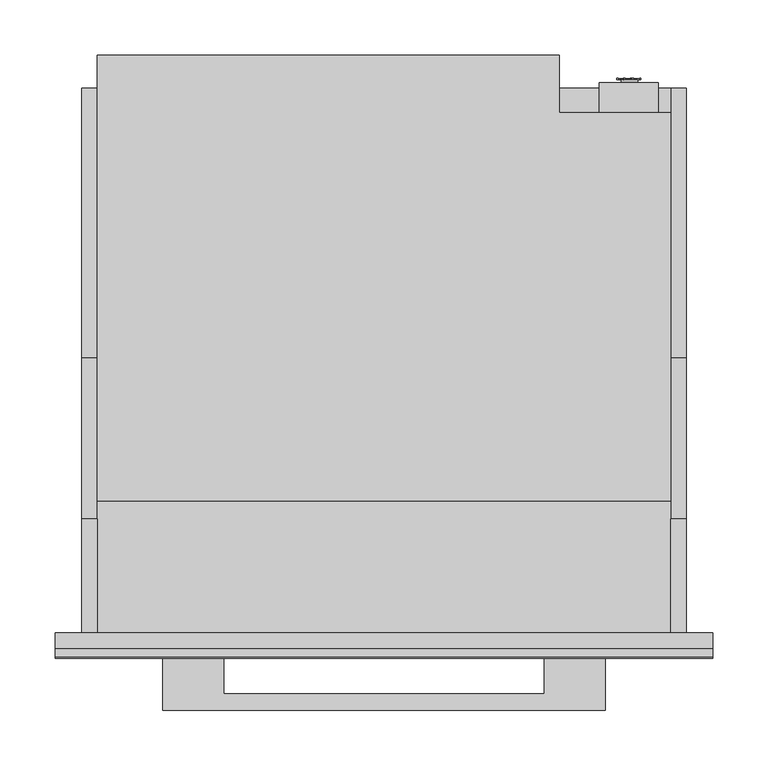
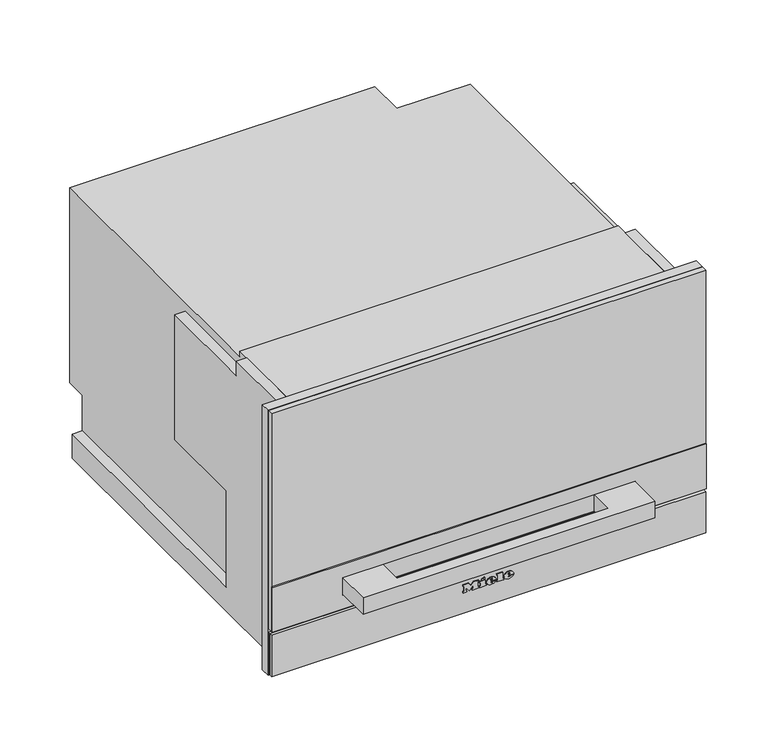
"""IFC4 building model written with IfcOpenShell, lengths in millimetres: proxy geometry, 11170090_NL_DGD7635_EDST-CLST : 23763545_NL_11170090_DGD7635_EDST-CLST."""

from ifc_helpers import new_model, si_unit, point, frame, frame_2d, origin, place, context, project, spatial, polyline, circle_curve, ellipse_curve, trimmed, segment, composite_curve, outline, extrude, faceted_brep, source, transform, mapped, element, save
from ifc_brep_helpers import plane_surface, cylinder_surface, revolved_surface, extruded_surface, advanced_brep


def specialty_equipment_29e4d5af(model_context):
    return source(origin(), model_context, "Body", "SolidModel", [
        advanced_brep(
        [(26.2998, -23.0, 36.7018), (26.2998, -23.0, 37.8532), (33.9264, -23.0, 37.8532), (20.6568, -23.0, 37.8532), (23.7918, -23.0, 34.0), (33.7326, -23.0, 36.7018), (30.2898, -23.0, 36.7018), (27.5766, -23.0, 35.425), (26.2998, -23.0, 39.3124), (26.2998, -23.0, 40.555), (28.2492, -23.0, 40.555), (28.2492, -23.0, 39.3124), (26.2998, -22.0, 36.7018), (27.5766, -22.0, 35.425), (30.2898, -22.0, 36.7018), (33.7326, -22.0, 36.7018), (23.7918, -22.0, 34.0), (20.6568, -22.0, 37.8532), (33.9264, -22.0, 37.8532), (26.2998, -22.0, 37.8532), (26.2998, -22.0, 39.3124), (28.2492, -22.0, 39.3124), (28.2492, -22.0, 40.555), (26.2998, -22.0, 40.555)],
        [
            (0, 1),
            (1, 2),
            (2, 3, ellipse_curve(frame((27.2916, -23.0, 37.8532), z_axis=(0.0, -1.0, 0.0), x_axis=(-1.0, 0.0, 0.0)), 6.6348, 5.4834)),
            (3, 4, circle_curve(frame((25.0686622, -23.0, 38.2408), z_axis=(0.0, -1.0, 0.0), x_axis=(0.0, 0.0, -1.0)), 4.4288556)),
            (4, 5, circle_curve(frame((27.1587808, -23.0, 41.2504), z_axis=(0.0, -1.0, 0.0), x_axis=(0.0, 0.0, -1.0)), 7.9940516)),
            (5, 6),
            (6, 7, circle_curve(frame((28.1338588, -23.0, 37.762), z_axis=(0.0, 1.0, 0.0), x_axis=(0.0, 0.0, -1.0)), 2.4025208)),
            (7, 0, circle_curve(frame((27.5766, -23.0, 36.7018), z_axis=(0.0, 1.0, 0.0), x_axis=(0.0, 0.0, -1.0)), 1.2768)),
            (8, 9),
            (9, 10, circle_curve(frame((27.2745, -23.0, 40.555), z_axis=(0.0, 1.0, 0.0), x_axis=(0.0, 0.0, -1.0)), 0.9747)),
            (10, 11),
            (11, 8),
            (12, 13, circle_curve(frame((27.5766, -22.0, 36.7018), z_axis=(0.0, -1.0, 0.0), x_axis=(0.0, 0.0, -1.0)), 1.2768)),
            (13, 14, circle_curve(frame((28.1338588, -22.0, 37.762), z_axis=(0.0, -1.0, 0.0), x_axis=(0.0, 0.0, -1.0)), 2.4025208)),
            (14, 15),
            (15, 16, circle_curve(frame((27.1587808, -22.0, 41.2504), z_axis=(0.0, 1.0, 0.0), x_axis=(0.0, 0.0, -1.0)), 7.9940516)),
            (16, 17, circle_curve(frame((25.0686622, -22.0, 38.2408), z_axis=(0.0, 1.0, 0.0), x_axis=(0.0, 0.0, -1.0)), 4.4288556)),
            (17, 18, ellipse_curve(frame((27.2916, -22.0, 37.8532), z_axis=(0.0, 1.0, 0.0), x_axis=(-1.0, 0.0, 0.0)), 6.6348, 5.4834)),
            (18, 19),
            (19, 12),
            (20, 21),
            (21, 22),
            (22, 23, circle_curve(frame((27.2745, -22.0, 40.555), z_axis=(0.0, -1.0, 0.0), x_axis=(0.0, 0.0, -1.0)), 0.9747)),
            (23, 20),
            (0, 12),
            (19, 1),
            (18, 2),
            (5, 15),
            (14, 6),
            (17, 3),
            (13, 7),
            (16, 4),
            (8, 20),
            (23, 9),
            (22, 10),
            (21, 11),
        ],
        [
            plane_surface(frame((26.2998, -23.0, 37.8532), z_axis=(0.0, -1.0, 0.0), x_axis=(0.0, 0.0, 1.0))),
            plane_surface(frame((26.2998, -22.0, 37.8532), z_axis=(0.0, 1.0, 0.0), x_axis=(0.0, 0.0, -1.0))),
            plane_surface(frame((26.2998, -23.0, 36.7018), z_axis=(1.0, 0.0, 0.0), x_axis=(0.0, 1.0, 0.0))),
            plane_surface(frame((26.2998, -23.0, 37.8532), z_axis=(0.0, 0.0, -1.0), x_axis=(0.0, 1.0, 0.0))),
            plane_surface(frame((33.7326, -23.0, 36.7018), z_axis=(0.0, 0.0, 1.0), x_axis=(0.0, 1.0, 0.0))),
            extruded_surface(trimmed(ellipse_curve(frame((27.2916, -21.0, 37.8532), z_axis=(0.0, -1.0, 0.0), x_axis=(-1.0, 0.0, 0.0)), 6.6348, 5.4834), [point((33.9264, -21.0, 37.8532))], [point((20.6568, -21.0, 37.8532))], True, "CARTESIAN"), (0.0, -1.0, 0.0), 1.0),
            revolved_surface(polyline([(28.1338588, -22.0, 35.3594792), (28.1338588, -23.0, 35.3594792)]), (28.1338588, -22.0, 37.762), (0.0, 1.0, 0.0)),
            revolved_surface(polyline([(27.5766, -22.0, 35.425), (27.5766, -23.0, 35.425)]), (27.5766, -22.0, 36.7018), (0.0, 1.0, 0.0)),
            cylinder_surface(frame((25.0686622, -22.0, 38.2408), z_axis=(0.0, -1.0, 0.0), x_axis=(0.0, 0.0, -1.0)), 4.4288556),
            cylinder_surface(frame((27.1587808, -22.0, 41.2504), z_axis=(0.0, -1.0, 0.0), x_axis=(0.0, 0.0, -1.0)), 7.9940516),
            plane_surface(frame((26.2998, -23.0, 39.3124), z_axis=(1.0, 0.0, 0.0), x_axis=(0.0, 1.0, 0.0))),
            revolved_surface(polyline([(27.2745, -22.0, 39.5803), (27.2745, -23.0, 39.5803)]), (27.2745, -22.0, 40.555), (0.0, 1.0, 0.0)),
            plane_surface(frame((28.2492, -23.0, 40.555), z_axis=(-1.0, 0.0, 0.0), x_axis=(0.0, 1.0, 0.0))),
            plane_surface(frame((28.2492, -23.0, 39.3124), z_axis=(0.0, 0.0, 1.0), x_axis=(0.0, 1.0, 0.0))),
        ],
        [
            (0, [[1, 2, 3, 4, 5, 6, 7, 8], [9, 10, 11, 12]]),
            (1, [[13, 14, 15, 16, 17, 18, 19, 20], [21, 22, 23, 24]]),
            (2, [[-1, 25, -20, 26]]),
            (3, [[-2, -26, -19, 27]]),
            (4, [[-6, 28, -15, 29]]),
            (5, [[-3, -27, -18, 30]]),
            (6, [[-7, -29, -14, 31]]),
            (7, [[-8, -31, -13, -25]]),
            (8, [[-4, -30, -17, 32]]),
            (9, [[-5, -32, -16, -28]]),
            (10, [[-9, 33, -24, 34]]),
            (11, [[-10, -34, -23, 35]]),
            (12, [[-11, -35, -22, 36]]),
            (13, [[-12, -36, -21, -33]]),
        ],
    ),
        advanced_brep(
        [(2.508, -23.0, 36.7018), (2.508, -23.0, 37.8532), (10.1346, -23.0, 37.8532), (-3.135, -23.0, 37.8532), (0.0, -23.0, 34.0), (9.9408, -23.0, 36.7018), (6.498, -23.0, 36.7018), (3.7848, -23.0, 35.425), (2.508, -23.0, 39.3124), (2.508, -23.0, 40.555), (4.4574, -23.0, 40.555), (4.4574, -23.0, 39.3124), (2.508, -22.0, 36.7018), (3.7848, -22.0, 35.425), (6.498, -22.0, 36.7018), (9.9408, -22.0, 36.7018), (0.0, -22.0, 34.0), (-3.135, -22.0, 37.8532), (10.1346, -22.0, 37.8532), (2.508, -22.0, 37.8532), (2.508, -22.0, 39.3124), (4.4574, -22.0, 39.3124), (4.4574, -22.0, 40.555), (2.508, -22.0, 40.555)],
        [
            (0, 1),
            (1, 2),
            (2, 3, ellipse_curve(frame((3.4998, -23.0, 37.8532), z_axis=(0.0, -1.0, 0.0), x_axis=(-1.0, 0.0, 0.0)), 6.6348, 5.4834)),
            (3, 4, circle_curve(frame((1.2768622, -23.0, 38.2408), z_axis=(0.0, -1.0, 0.0), x_axis=(0.0, 0.0, -1.0)), 4.4288556)),
            (4, 5, circle_curve(frame((3.3669808, -23.0, 41.2504), z_axis=(0.0, -1.0, 0.0), x_axis=(0.0, 0.0, -1.0)), 7.9940516)),
            (5, 6),
            (6, 7, circle_curve(frame((4.3420588, -23.0, 37.762), z_axis=(0.0, 1.0, 0.0), x_axis=(0.0, 0.0, -1.0)), 2.4025208)),
            (7, 0, circle_curve(frame((3.7848, -23.0, 36.7018), z_axis=(0.0, 1.0, 0.0), x_axis=(0.0, 0.0, -1.0)), 1.2768)),
            (8, 9),
            (9, 10, circle_curve(frame((3.4827, -23.0, 40.555), z_axis=(0.0, 1.0, 0.0), x_axis=(0.0, 0.0, -1.0)), 0.9747)),
            (10, 11),
            (11, 8),
            (12, 13, circle_curve(frame((3.7848, -22.0, 36.7018), z_axis=(0.0, -1.0, 0.0), x_axis=(0.0, 0.0, -1.0)), 1.2768)),
            (13, 14, circle_curve(frame((4.3420588, -22.0, 37.762), z_axis=(0.0, -1.0, 0.0), x_axis=(0.0, 0.0, -1.0)), 2.4025208)),
            (14, 15),
            (15, 16, circle_curve(frame((3.3669808, -22.0, 41.2504), z_axis=(0.0, 1.0, 0.0), x_axis=(0.0, 0.0, -1.0)), 7.9940516)),
            (16, 17, circle_curve(frame((1.2768622, -22.0, 38.2408), z_axis=(0.0, 1.0, 0.0), x_axis=(0.0, 0.0, -1.0)), 4.4288556)),
            (17, 18, ellipse_curve(frame((3.4998, -22.0, 37.8532), z_axis=(0.0, 1.0, 0.0), x_axis=(-1.0, 0.0, 0.0)), 6.6348, 5.4834)),
            (18, 19),
            (19, 12),
            (20, 21),
            (21, 22),
            (22, 23, circle_curve(frame((3.4827, -22.0, 40.555), z_axis=(0.0, -1.0, 0.0), x_axis=(0.0, 0.0, -1.0)), 0.9747)),
            (23, 20),
            (0, 12),
            (19, 1),
            (18, 2),
            (5, 15),
            (14, 6),
            (17, 3),
            (13, 7),
            (16, 4),
            (8, 20),
            (23, 9),
            (22, 10),
            (21, 11),
        ],
        [
            plane_surface(frame((2.508, -23.0, 37.8532), z_axis=(0.0, -1.0, 0.0), x_axis=(0.0, 0.0, 1.0))),
            plane_surface(frame((2.508, -22.0, 37.8532), z_axis=(0.0, 1.0, 0.0), x_axis=(0.0, 0.0, -1.0))),
            plane_surface(frame((2.508, -23.0, 36.7018), z_axis=(1.0, 0.0, 0.0), x_axis=(0.0, 1.0, 0.0))),
            plane_surface(frame((2.508, -23.0, 37.8532), z_axis=(0.0, 0.0, -1.0), x_axis=(0.0, 1.0, 0.0))),
            plane_surface(frame((9.9408, -23.0, 36.7018), z_axis=(0.0, 0.0, 1.0), x_axis=(0.0, 1.0, 0.0))),
            extruded_surface(trimmed(ellipse_curve(frame((3.4998, -21.0, 37.8532), z_axis=(0.0, -1.0, 0.0), x_axis=(-1.0, 0.0, 0.0)), 6.6348, 5.4834), [point((10.1346, -21.0, 37.8532))], [point((-3.135, -21.0, 37.8532))], True, "CARTESIAN"), (0.0, -1.0, 0.0), 1.0),
            revolved_surface(polyline([(4.3420588, -22.0, 35.3594792), (4.3420588, -23.0, 35.3594792)]), (4.3420588, -22.0, 37.762), (0.0, 1.0, 0.0)),
            revolved_surface(polyline([(3.7848, -22.0, 35.425), (3.7848, -23.0, 35.425)]), (3.7848, -22.0, 36.7018), (0.0, 1.0, 0.0)),
            cylinder_surface(frame((1.2768622, -22.0, 38.2408), z_axis=(0.0, -1.0, 0.0), x_axis=(0.0, 0.0, -1.0)), 4.4288556),
            cylinder_surface(frame((3.3669808, -22.0, 41.2504), z_axis=(0.0, -1.0, 0.0), x_axis=(0.0, 0.0, -1.0)), 7.9940516),
            plane_surface(frame((2.508, -23.0, 39.3124), z_axis=(1.0, 0.0, 0.0), x_axis=(0.0, 1.0, 0.0))),
            revolved_surface(polyline([(3.4827, -22.0, 39.5803), (3.4827, -23.0, 39.5803)]), (3.4827, -22.0, 40.555), (0.0, 1.0, 0.0)),
            plane_surface(frame((4.4574, -23.0, 40.555), z_axis=(-1.0, 0.0, 0.0), x_axis=(0.0, 1.0, 0.0))),
            plane_surface(frame((4.4574, -23.0, 39.3124), z_axis=(0.0, 0.0, 1.0), x_axis=(0.0, 1.0, 0.0))),
        ],
        [
            (0, [[1, 2, 3, 4, 5, 6, 7, 8], [9, 10, 11, 12]]),
            (1, [[13, 14, 15, 16, 17, 18, 19, 20], [21, 22, 23, 24]]),
            (2, [[-1, 25, -20, 26]]),
            (3, [[-2, -26, -19, 27]]),
            (4, [[-6, 28, -15, 29]]),
            (5, [[-3, -27, -18, 30]]),
            (6, [[-7, -29, -14, 31]]),
            (7, [[-8, -31, -13, -25]]),
            (8, [[-4, -30, -17, 32]]),
            (9, [[-5, -32, -16, -28]]),
            (10, [[-9, 33, -24, 34]]),
            (11, [[-10, -34, -23, 35]]),
            (12, [[-11, -35, -22, 36]]),
            (13, [[-12, -36, -21, -33]]),
        ],
    ),
        extrude(outline(polyline([(44.7274, -9.9522), (42.8806, -9.0858), (44.6818, -5.2212), (46.5286, -6.0762), (44.7274, -9.9522)])), frame((0.0, -23.0, 0.0), z_axis=(0.0, 1.0, 0.0), x_axis=(0.0, 0.0, 1.0)), (0.0, 0.0, 1.0), 1.0),
        extrude(outline(polyline([(42.6298, -12.768), (40.5892, -12.768), (40.5892, -11.4114), (35.9152, -11.4114), (35.9152, -12.768), (34.0, -12.768), (34.0, -3.7734), (35.9152, -3.7734), (35.9152, -5.0958), (42.6298, -5.0958), (42.6298, -12.768)])), frame((0.0, -23.0, 0.0), z_axis=(0.0, 1.0, 0.0), x_axis=(0.0, 0.0, 1.0)), (0.0, 0.0, 1.0), 1.0),
        extrude(outline(polyline([(43.5418, 10.773), (43.5418, 12.141), (35.9152, 12.141), (35.9152, 10.773), (34.0, 10.773), (34.0, 20.0184), (35.9152, 20.0184), (35.9152, 18.6162), (45.4, 18.6162), (45.4, 10.773), (43.5418, 10.773)])), frame((0.0, -23.0, 0.0), z_axis=(0.0, 1.0, 0.0), x_axis=(0.0, 0.0, 1.0)), (0.0, 0.0, 1.0), 1.0),
        extrude(outline(polyline([(43.5418, -35.4882), (43.5418, -34.1088), (35.9152, -34.1088), (35.9152, -35.4882), (34.0, -35.4882), (34.0, -30.4722), (35.9152, -30.4722), (35.9152, -31.8402), (40.7429247, -31.8402), (34.0, -26.7444), (40.9402223, -21.6258), (35.9152, -21.6258), (35.9152, -23.028), (34.0, -23.028), (34.0, -13.9308), (35.9152, -13.9308), (35.9152, -15.3786), (43.5418, -15.3786), (43.5418, -13.9308), (45.4, -13.9308), (45.4, -20.8734), (41.125, -24.2022), (45.4, -27.5424), (45.4, -35.4882), (43.5418, -35.4882)])), frame((0.0, -23.0, 0.0), z_axis=(0.0, 1.0, 0.0), x_axis=(0.0, 0.0, 1.0)), (0.0, 0.0, 1.0), 1.0),
        extrude(outline(polyline([(385.0, 297.5), (385.0, -297.5), (1.0, -297.5), (1.0, 297.5), (385.0, 297.5)]), holes=[polyline([(376.0, 271.5), (55.0, 271.5), (55.0, -271.5), (376.0, -271.5), (376.0, 271.5)])]), frame((0.0, -14.0, 0.0), z_axis=(0.0, 1.0, 0.0), x_axis=(0.0, 0.0, 1.0)), (0.0, 0.0, 1.0), 14.0),
        extrude(outline(polyline([(-297.5, -18.0), (297.5, -18.0), (297.5, -22.0), (-297.5, -22.0), (-297.5, -18.0)])), frame((0.0, 0.0, 4.0), z_axis=(0.0, 0.0, 1.0), x_axis=(1.0, 0.0, 0.0)), (0.0, 0.0, 1.0), 60.0),
        extrude(outline(polyline([(-297.5, -14.0), (297.5, -14.0), (297.5, -18.0), (-297.5, -18.0), (-297.5, -14.0)])), frame((0.0, 0.0, 4.0), z_axis=(0.0, 0.0, 1.0), x_axis=(1.0, 0.0, 0.0)), (0.0, 0.0, 1.0), 60.0),
        extrude(outline(composite_curve([segment(trimmed(circle_curve(frame_2d((220.0, -56.0)), 142.0), [point((220.0, 86.0))], [point((220.0, -198.0))], False, "CARTESIAN"), True, "CONTINUOUS"), segment(trimmed(circle_curve(frame_2d((220.0, -56.0)), 142.0), [point((220.0, -198.0))], [point((220.0, 86.0))], False, "CARTESIAN"), True, "CONTINUOUS")], self_intersect=False), holes=[composite_curve([segment(trimmed(circle_curve(frame_2d((220.0, -56.0)), 130.0), [point((220.0, 74.0))], [point((220.0, -186.0))], True, "CARTESIAN"), True, "CONTINUOUS"), segment(trimmed(circle_curve(frame_2d((220.0, -56.0)), 130.0), [point((220.0, -186.0))], [point((220.0, 74.0))], True, "CARTESIAN"), True, "CONTINUOUS")], self_intersect=False)]), frame((0.0, 73.0, 0.0), z_axis=(0.0, 1.0, 0.0), x_axis=(0.0, 0.0, 1.0)), (0.0, 0.0, 1.0), 27.0),
        extrude(outline(polyline([(135.3565747, 500.0), (134.220051, 503.1225733), (130.1009663, 503.1225733), (128.9644426, 500.0), (127.6142523, 500.0), (131.587748, 510.0), (132.7133829, 510.0), (136.6813016, 500.0), (135.3565747, 500.0)]), holes=[polyline([(133.7362065, 504.4519252), (132.1605087, 508.7811193), (130.5848109, 504.4519252), (133.7362065, 504.4519252)])]), frame((0.0, 0.0, 55.0), z_axis=(0.0, 0.0, 1.0), x_axis=(1.0, 0.0, 0.0)), (0.0, 0.0, 1.0), 1.0),
        extrude(outline(polyline([(125.9185787, 510.0), (127.1760447, 510.0), (124.4705666, 500.0), (122.9432999, 500.0), (120.3689708, 508.830311), (117.6245927, 500.0), (116.2783886, 500.0), (113.5302279, 510.0549623), (114.836363, 510.0549623), (116.9115224, 501.4130168), (119.4406083, 510.0471338), (121.3085745, 510.0471338), (123.8274276, 501.4071134), (125.9185787, 510.0)])), frame((0.0, 0.0, 55.0), z_axis=(0.0, 0.0, 1.0), x_axis=(1.0, 0.0, 0.0)), (0.0, 0.0, 1.0), 1.0),
        extrude(outline(polyline([(241.3772603, 474.0), (234.0, 474.0), (234.0, 475.2557039), (240.1215564, 475.2557039), (240.1215564, 478.5519266), (234.470889, 478.5519266), (234.470889, 479.8076304), (240.1215564, 479.8076304), (240.1215564, 482.7899271), (234.156963, 482.7899271), (234.156963, 484.045631), (241.3772603, 484.045631), (241.3772603, 474.0)])), frame((0.0, 0.0, 230.0), z_axis=(0.0, 0.0, 1.0), x_axis=(1.0, 0.0, 0.0)), (0.0, 0.0, 1.0), 1.0),
        extrude(outline(polyline([(232.1164442, 474.0), (225.8379248, 474.0), (225.8379248, 475.2557039), (230.8607403, 475.2557039), (230.8607403, 484.045631), (232.1164442, 484.045631), (232.1164442, 474.0)])), frame((0.0, 0.0, 230.0), z_axis=(0.0, 0.0, 1.0), x_axis=(1.0, 0.0, 0.0)), (0.0, 0.0, 1.0), 1.0),
        extrude(outline(polyline([(159.0, 232.51652), (169.045631, 232.51652), (169.045631, 231.2608161), (164.128275, 231.2608161), (169.045631, 226.1104682), (169.045631, 224.3544448), (164.9155425, 228.6782845), (159.0, 224.1974818), (159.0, 225.732776), (164.0669613, 229.5685589), (162.4531857, 231.2608161), (159.0, 231.2608161), (159.0, 232.51652)])), frame((0.0, 501.0, 0.0), z_axis=(0.0, 1.0, 0.0), x_axis=(0.0, 0.0, 1.0)), (0.0, 0.0, 1.0), 1.0),
        extrude(outline(polyline([(159.0, 221.4579872), (169.045631, 224.1974818), (169.045631, 222.9025372), (162.4433755, 221.3132869), (160.4053092, 220.8227776), (162.207931, 220.2979326), (169.045631, 218.3064648), (169.045631, 216.4400768), (164.0890343, 214.9930743), (160.4053092, 213.9164063), (162.3845144, 213.4406122), (169.045631, 211.8366467), (169.045631, 210.5417021), (159.0, 213.2836493), (159.0, 214.6251923), (166.7500474, 217.0335931), (167.8316204, 217.369592), (166.5293182, 217.7472841), (159.0, 219.9423134), (159.0, 221.4579872)])), frame((0.0, 501.0, 0.0), z_axis=(0.0, 1.0, 0.0), x_axis=(0.0, 0.0, 1.0)), (0.0, 0.0, 1.0), 1.0),
        extrude(outline(composite_curve([segment(trimmed(circle_curve(frame_2d((164.0, 222.0)), 7.5), [point((164.0, 229.5))], [point((164.0, 214.5))], False, "CARTESIAN"), True, "CONTINUOUS"), segment(trimmed(circle_curve(frame_2d((164.0, 222.0)), 7.5), [point((164.0, 214.5))], [point((164.0, 229.5))], False, "CARTESIAN"), True, "CONTINUOUS")], self_intersect=False)), frame((0.0, 471.0, 0.0), z_axis=(0.0, 1.0, 0.0), x_axis=(0.0, 0.0, 1.0)), (0.0, 0.0, 1.0), 30.0),
        extrude(outline(composite_curve([segment(trimmed(circle_curve(frame_2d((125.0, 505.0)), 7.5), [point((117.5, 505.0))], [point((132.5, 505.0))], False, "CARTESIAN"), True, "CONTINUOUS"), segment(trimmed(circle_curve(frame_2d((125.0, 505.0)), 7.5), [point((132.5, 505.0))], [point((117.5, 505.0))], False, "CARTESIAN"), True, "CONTINUOUS")], self_intersect=False)), frame((0.0, 0.0, 56.0), z_axis=(0.0, 0.0, 1.0), x_axis=(1.0, 0.0, 0.0)), (0.0, 0.0, 1.0), 30.0),
        extrude(outline(composite_curve([segment(trimmed(circle_curve(frame_2d((234.0, 478.8)), 7.5), [point((226.5, 478.8))], [point((241.5, 478.8))], False, "CARTESIAN"), True, "CONTINUOUS"), segment(trimmed(circle_curve(frame_2d((234.0, 478.8)), 7.5), [point((241.5, 478.8))], [point((226.5, 478.8))], False, "CARTESIAN"), True, "CONTINUOUS")], self_intersect=False)), frame((0.0, 0.0, 231.0), z_axis=(0.0, 0.0, 1.0), x_axis=(1.0, 0.0, 0.0)), (0.0, 0.0, 1.0), 30.0),
        extrude(outline(polyline([(195.0, 498.0), (248.0, 498.0), (248.0, 471.0), (195.0, 471.0), (195.0, 498.0)])), frame((0.0, 0.0, 261.0), z_axis=(0.0, 0.0, 1.0), x_axis=(1.0, 0.0, 0.0)), (0.0, 0.0, 1.0), 84.0),
        faceted_brep([(273.5, 0.0, 0.0), (273.5, 493.0, 0.0), (273.5, 493.0, 35.0), (273.5, 127.0, 35.0), (273.5, 127.0, 175.0), (273.5, 249.0, 175.0), (273.5, 249.0, 356.0), (273.5, 103.0, 356.0), (273.5, 103.0, 377.0), (273.5, 0.0, 377.0), (259.5, 0.0, 377.0), (259.5, 103.0, 377.0), (259.5, 103.0, 356.0), (259.5, 249.0, 356.0), (259.5, 249.0, 175.0), (259.5, 127.0, 175.0), (259.5, 127.0, 35.0), (259.5, 493.0, 35.0), (259.5, 493.0, 0.0), (259.5, 0.0, 0.0), (259.5, 0.0, 55.0), (259.5, 100.0, 55.0), (259.5, 100.0, 376.0), (259.5, 0.0, 376.0), (271.5, 0.0, 376.0), (271.5, 0.0, 55.0), (271.5, 100.0, 55.0), (271.5, 100.0, 376.0)], [[[0, 1, 2, 3, 4, 5, 6, 7, 8, 9]], [[10, 11, 12, 13, 14, 15, 16, 17, 18, 19, 20, 21, 22, 23]], [[1, 0, 19, 18]], [[2, 1, 18, 17]], [[3, 2, 17, 16]], [[4, 3, 16, 15]], [[5, 4, 15, 14]], [[6, 5, 14, 13]], [[7, 6, 13, 12]], [[8, 7, 12, 11]], [[9, 8, 11, 10]], [[0, 9, 10, 23, 24, 25, 20, 19]], [[26, 27, 22, 21]], [[27, 26, 25, 24]], [[26, 21, 20, 25]], [[22, 27, 24, 23]]]),
        faceted_brep([(-273.5, 103.0, 377.0), (-273.5, 103.0, 356.0), (-273.5, 249.0, 356.0), (-273.5, 249.0, 175.0), (-273.5, 127.0, 175.0), (-273.5, 127.0, 35.0), (-273.5, 493.0, 35.0), (-273.5, 493.0, 0.0), (-273.5, 0.0, 0.0), (-273.5, 0.0, 377.0), (-259.5, 103.0, 377.0), (-259.5, 0.0, 377.0), (-259.5, 0.0, 376.0), (-259.5, 100.0, 376.0), (-259.5, 100.0, 55.0), (-259.5, 0.0, 55.0), (-259.5, 0.0, 0.0), (-259.5, 493.0, 0.0), (-259.5, 493.0, 35.0), (-259.5, 127.0, 35.0), (-259.5, 127.0, 175.0), (-259.5, 249.0, 175.0), (-259.5, 249.0, 356.0), (-259.5, 103.0, 356.0), (-271.5, 0.0, 55.0), (-271.5, 0.0, 376.0), (-271.5, 100.0, 376.0), (-271.5, 100.0, 55.0)], [[[0, 1, 2, 3, 4, 5, 6, 7, 8, 9]], [[10, 11, 12, 13, 14, 15, 16, 17, 18, 19, 20, 21, 22, 23]], [[0, 9, 11, 10]], [[9, 8, 16, 15, 24, 25, 12, 11]], [[8, 7, 17, 16]], [[7, 6, 18, 17]], [[6, 5, 19, 18]], [[5, 4, 20, 19]], [[4, 3, 21, 20]], [[3, 2, 22, 21]], [[2, 1, 23, 22]], [[1, 0, 10, 23]], [[26, 27, 14, 13]], [[14, 27, 24, 15]], [[27, 26, 25, 24]], [[26, 13, 12, 25]]]),
        advanced_brep(
        [(259.5, 100.0, 376.0), (-259.5, 100.0, 376.0), (-259.5, 100.0, 55.0), (259.5, 100.0, 55.0), (74.0, 100.0, 220.0), (-186.0, 100.0, 220.0), (-259.5, 0.0, 55.0), (259.5, 0.0, 55.0), (259.5, 0.0, 376.0), (-259.5, 0.0, 376.0), (158.5, 471.0, 369.0), (259.5, 471.0, 369.0), (259.5, 471.0, 88.0), (158.5, 471.0, 88.0), (259.5, 0.0, 377.0), (-259.5, 0.0, 377.0), (-259.5, 0.0, 0.0), (259.5, 0.0, 0.0), (259.5, 493.0, 0.0), (259.5, 493.0, 88.0), (259.5, 119.0, 369.0), (259.5, 119.0, 377.0), (-259.5, 493.0, 0.0), (-259.5, 119.0, 377.0), (-259.5, 119.0, 369.0), (-259.5, 523.0, 369.0), (-259.5, 523.0, 86.0), (-259.5, 493.0, 86.0), (158.5, 523.0, 369.0), (158.5, 523.0, 86.0), (158.5, 493.0, 88.0), (158.5, 493.0, 86.0), (74.0, 438.0, 220.0), (-186.0, 438.0, 220.0)],
        [
            (0, 1),
            (1, 2),
            (2, 3),
            (3, 0),
            (4, 5, circle_curve(frame((-56.0, 100.0, 220.0), z_axis=(0.0, 1.0, 0.0), x_axis=(-1.0, 0.0, 0.0)), 130.0)),
            (5, 4, circle_curve(frame((-56.0, 100.0, 220.0), z_axis=(0.0, 1.0, 0.0), x_axis=(-1.0, 0.0, 0.0)), 130.0)),
            (2, 6),
            (6, 7),
            (7, 3),
            (0, 8),
            (8, 9),
            (9, 1),
            (10, 11),
            (11, 12),
            (12, 13),
            (13, 10),
            (14, 15),
            (15, 9),
            (8, 14),
            (16, 17),
            (17, 7),
            (6, 16),
            (18, 19),
            (19, 12),
            (11, 20),
            (20, 21),
            (21, 14),
            (17, 18),
            (16, 22),
            (22, 18),
            (15, 23),
            (23, 24),
            (24, 25),
            (25, 26),
            (26, 27),
            (27, 22),
            (21, 23),
            (25, 28),
            (28, 29),
            (29, 26),
            (28, 10),
            (13, 30),
            (30, 31),
            (31, 29),
            (31, 27),
            (20, 24),
            (30, 19),
            (32, 33, circle_curve(frame((-56.0, 438.0, 220.0), z_axis=(0.0, -1.0, 0.0), x_axis=(-1.0, 0.0, 0.0)), 130.0)),
            (33, 32, circle_curve(frame((-56.0, 438.0, 220.0), z_axis=(0.0, -1.0, 0.0), x_axis=(-1.0, 0.0, 0.0)), 130.0)),
            (33, 5),
            (4, 32),
        ],
        [
            plane_surface(frame((271.5, 100.0, 376.0), z_axis=(0.0, -1.0, 0.0), x_axis=(0.0, 0.0, -1.0))),
            plane_surface(frame((271.5, 100.0, 55.0), z_axis=(0.0, 0.0, 1.0), x_axis=(0.0, -1.0, 0.0))),
            plane_surface(frame((-271.5, 100.0, 376.0), z_axis=(0.0, 0.0, -1.0), x_axis=(0.0, -1.0, 0.0))),
            plane_surface(frame((259.5, 471.0, 377.0), z_axis=(0.0, 1.0, 0.0), x_axis=(0.0, 0.0, -1.0))),
            plane_surface(frame((259.5, 0.0, 377.0), z_axis=(0.0, -1.0, 0.0), x_axis=(0.0, 0.0, 1.0))),
            plane_surface(frame((259.5, 471.0, 377.0), z_axis=(1.0, 0.0, 0.0), x_axis=(0.0, -1.0, 0.0))),
            plane_surface(frame((259.5, 471.0, 0.0), z_axis=(0.0, 0.0, -1.0), x_axis=(0.0, -1.0, 0.0))),
            plane_surface(frame((-259.5, 471.0, 0.0), z_axis=(-1.0, 0.0, 0.0), x_axis=(0.0, -1.0, 0.0))),
            plane_surface(frame((-259.5, 471.0, 377.0), z_axis=(0.0, 0.0, 1.0), x_axis=(0.0, -1.0, 0.0))),
            plane_surface(frame((158.5, 523.0, 369.0), z_axis=(0.0, 1.0, 0.0), x_axis=(1.0, 0.0, 0.0))),
            plane_surface(frame((158.5, 523.0, 369.0), z_axis=(1.0, 0.0, 0.0), x_axis=(0.0, -1.0, 0.0))),
            plane_surface(frame((158.5, 523.0, 86.0), z_axis=(0.0, 0.0, -1.0), x_axis=(0.0, -1.0, 0.0))),
            plane_surface(frame((259.5, 119.0, 399.0), z_axis=(0.0, 1.0, 0.0), x_axis=(-1.0, 0.0, 0.0))),
            plane_surface(frame((259.5, 119.0, 369.0), z_axis=(0.0, 0.0, 1.0), x_axis=(-1.0, 0.0, 0.0))),
            plane_surface(frame((259.5, 493.0, 88.0), z_axis=(0.0, 1.0, 0.0), x_axis=(1.0, 0.0, 0.0))),
            plane_surface(frame((-259.5, 493.0, 88.0), z_axis=(0.0, 0.0, 1.0), x_axis=(0.0, -1.0, 0.0))),
            plane_surface(frame((-186.0, 438.0, 220.0), z_axis=(0.0, -1.0, 0.0), x_axis=(0.0, 0.0, 1.0))),
            revolved_surface(polyline([(-186.0, 438.0, 220.0), (-186.0, 100.0, 220.0)]), (-56.0, -14.0, 220.0), (0.0, 1.0, 0.0)),
        ],
        [
            (0, [[1, 2, 3, 4], [5, 6]]),
            (1, [[-3, 7, 8, 9]]),
            (2, [[-1, 10, 11, 12]]),
            (3, [[13, 14, 15, 16]]),
            (4, [[17, 18, -11, 19]]),
            (4, [[20, 21, -8, 22]]),
            (5, [[23, 24, -14, 25, 26, 27, -19, -10, -4, -9, -21, 28]]),
            (6, [[-28, -20, 29, 30]]),
            (7, [[-29, -22, -7, -2, -12, -18, 31, 32, 33, 34, 35, 36]]),
            (8, [[-17, -27, 37, -31]]),
            (9, [[38, 39, 40, -34]]),
            (10, [[-39, 41, -16, 42, 43, 44]]),
            (11, [[-40, -44, 45, -35]]),
            (12, [[46, -32, -37, -26]]),
            (13, [[-46, -25, -13, -41, -38, -33]]),
            (14, [[-23, -30, -36, -45, -43, 47]]),
            (15, [[-24, -47, -42, -15]]),
            (16, [[48, 49]]),
            (17, [[-49, 50, -5, 51]]),
            (17, [[-48, -51, -6, -50]]),
        ],
    ),
        extrude(outline(polyline([(-200.0, -70.3), (-200.0, -22.0), (-145.0, -22.0), (-145.0, -55.3), (145.0, -55.3), (145.0, -22.0), (200.0, -22.0), (200.0, -70.3), (-200.0, -70.3)])), frame((0.0, 0.0, 89.5), z_axis=(0.0, 0.0, 1.0), x_axis=(1.0, 0.0, 0.0)), (0.0, 0.0, 1.0), 24.0),
        extrude(outline(polyline([(134.0, 297.5), (134.0, -297.5), (69.0, -297.5), (69.0, 297.5), (134.0, 297.5)]), holes=[polyline([(114.0, 200.5), (89.0, 200.5), (89.0, -200.5), (114.0, -200.5), (114.0, 200.5)])]), frame((0.0, -23.3, 0.0), z_axis=(0.0, 1.0, 0.0), x_axis=(0.0, 0.0, 1.0)), (0.0, 0.0, 1.0), 1.3),
        extrude(outline(polyline([(-297.5, -14.0), (297.5, -14.0), (297.5, -22.0), (-297.5, -22.0), (-297.5, -14.0)])), frame((0.0, 0.0, 69.0), z_axis=(0.0, 0.0, 1.0), x_axis=(1.0, 0.0, 0.0)), (0.0, 0.0, 1.0), 316.0),
    ])


if __name__ == "__main__":
    model = new_model("IFC4")
    model_context = context("Model", 3, world=origin())
    ifc_project = project(units=[si_unit("LENGTHUNIT", "METRE", prefix="MILLI")], contexts=[model_context])
    site = spatial("IfcSite", under=ifc_project)
    building = spatial("IfcBuilding", under=site)
    placement = place(None, origin())
    specialty_equipment_shape = specialty_equipment_29e4d5af(model_context)
    element("IfcBuildingElementProxy", 1, Name="11170090_NL_DGD7635_EDST-CLST : 23763545_NL_11170090_DGD7635_EDST-CLST", ObjectType="11170090_NL_DGD7635_EDST-CLST : 23763545_NL_11170090_DGD7635_EDST-CLST", at=placement, inside=building, context=model_context, shape_type="MappedRepresentation", body=[
        mapped(specialty_equipment_shape, transform((0.0, 0.0, 0.0), x_axis=(1.0, 0.0, 0.0), y_axis=(0.0, 1.0, 0.0), z_axis=(0.0, 0.0, 1.0))),
    ])
    save(model, "model.ifc")
